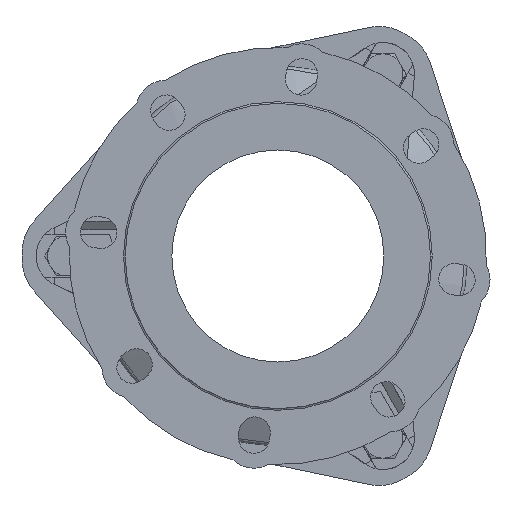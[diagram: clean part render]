
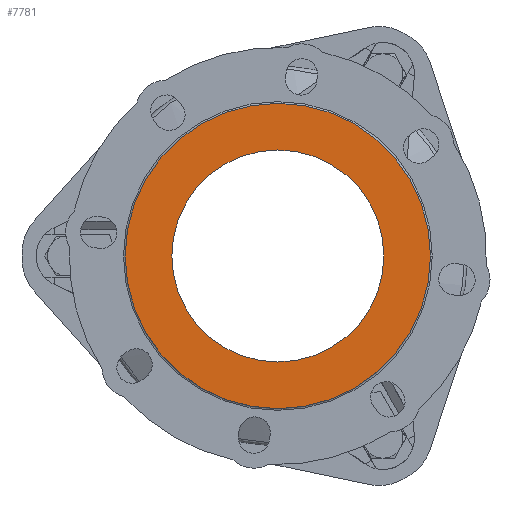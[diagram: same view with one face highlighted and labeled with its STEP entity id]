
A CAD part, front view. The second image highlights one B-rep face of the part: STEP entity #7781.
In plain terms, the highlighted planar face has unit normal (0, -1, 0).
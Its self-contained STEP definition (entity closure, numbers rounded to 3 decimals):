
#5111=CARTESIAN_POINT('',(0.,-111.,0.));
#5112=DIRECTION('',(0.,-1.,0.));
#5113=DIRECTION('',(0.966,0.,-0.259));
#5114=AXIS2_PLACEMENT_3D('',#5111,#5112,#5113);
#5116=CARTESIAN_POINT('',(0.,-111.,0.));
#5117=DIRECTION('',(0.,1.,0.));
#5118=DIRECTION('',(0.966,0.,-0.259));
#5119=AXIS2_PLACEMENT_3D('',#5116,#5117,#5118);
#5126=CARTESIAN_POINT('',(0.,-111.,0.));
#5127=DIRECTION('',(0.,-1.,0.));
#5128=DIRECTION('',(0.966,0.,-0.259));
#5129=AXIS2_PLACEMENT_3D('',#5126,#5127,#5128);
#5136=CARTESIAN_POINT('',(0.,-111.,0.));
#5137=DIRECTION('',(0.,1.,0.));
#5138=DIRECTION('',(0.966,0.,-0.259));
#5139=AXIS2_PLACEMENT_3D('',#5136,#5137,#5138);
#6393=CARTESIAN_POINT('',(60.37,-111.,-16.176));
#6394=VERTEX_POINT('',#6393);
#6396=CARTESIAN_POINT('',(86.933,-111.,-23.294));
#6398=VERTEX_POINT('',#6396);
#6409=CARTESIAN_POINT('',(-44.194,-111.,-44.194));
#6410=VERTEX_POINT('',#6409);
#6412=CARTESIAN_POINT('',(-63.64,-111.,-63.64));
#6414=VERTEX_POINT('',#6412);
#7766=CARTESIAN_POINT('',(0.,-111.,0.));
#7767=DIRECTION('',(0.,1.,0.));
#7768=DIRECTION('',(-0.707,0.,-0.707));
#7769=AXIS2_PLACEMENT_3D('',#7766,#7767,#7768);
#7770=PLANE('',#7769);
#7772=ORIENTED_EDGE('',*,*,#7771,.F.);
#7774=ORIENTED_EDGE('',*,*,#7773,.T.);
#7775=EDGE_LOOP('',(#7772,#7774));
#7776=FACE_OUTER_BOUND('',#7775,.F.);
#7777=ORIENTED_EDGE('',*,*,#7761,.T.);
#7778=ORIENTED_EDGE('',*,*,#7745,.F.);
#7779=EDGE_LOOP('',(#7777,#7778));
#7780=FACE_BOUND('',#7779,.F.);
#7781=ADVANCED_FACE('',(#7776,#7780),#7770,.F.);
#5115=CIRCLE('',#5114,62.5);
#5120=CIRCLE('',#5119,62.5);
#5130=CIRCLE('',#5129,90.);
#5140=CIRCLE('',#5139,90.);
#7745=EDGE_CURVE('',#6394,#6410,#5120,.T.);
#7761=EDGE_CURVE('',#6394,#6410,#5115,.T.);
#7771=EDGE_CURVE('',#6398,#6414,#5130,.T.);
#7773=EDGE_CURVE('',#6398,#6414,#5140,.T.);
